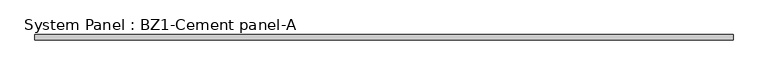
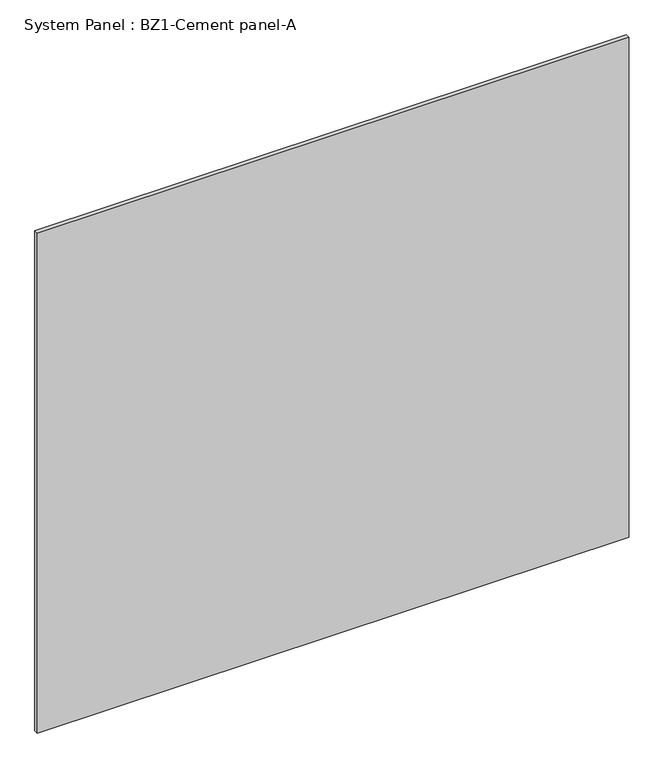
"""IFC4 building model written with IfcOpenShell, lengths in millimetres: plate geometry, System Panel : BZ1-Cement panel-A."""

from ifc_helpers import new_model, si_unit, origin, origin_with_axes, place, context, project, spatial, polyline, outline, extrude, source, transform, mapped, element, save


def system_panel_bz1_cement_panel_a_91910c2d(model_context):
    return source(origin(), model_context, "Body", "SweptSolid", [
        extrude(outline(polyline([(816.1791095, -2.0), (-816.1791095, -2.0), (-816.1791095, 10.0), (816.1791095, 10.0), (816.1791095, -2.0)])), origin_with_axes(), (0.0, 0.0, 1.0), 1457.28125),
    ])


if __name__ == "__main__":
    model = new_model("IFC4")
    model_context = context("Model", 3, world=origin())
    ifc_project = project(units=[si_unit("LENGTHUNIT", "METRE", prefix="MILLI")], contexts=[model_context])
    site = spatial("IfcSite", under=ifc_project)
    building = spatial("IfcBuilding", under=site)
    placement = place(None, origin())
    system_panel_bz1_cement_panel_a_shape = system_panel_bz1_cement_panel_a_91910c2d(model_context)
    element("IfcPlate", 1, ObjectType="System Panel : BZ1-Cement panel-A", at=placement, inside=building, context=model_context, shape_type="MappedRepresentation", body=[
        mapped(system_panel_bz1_cement_panel_a_shape, transform((0.0, 0.0, 0.0), x_axis=(1.0, 0.0, 0.0), y_axis=(0.0, 1.0, 0.0), z_axis=(0.0, 0.0, 1.0))),
    ])
    save(model, "model.ifc")
